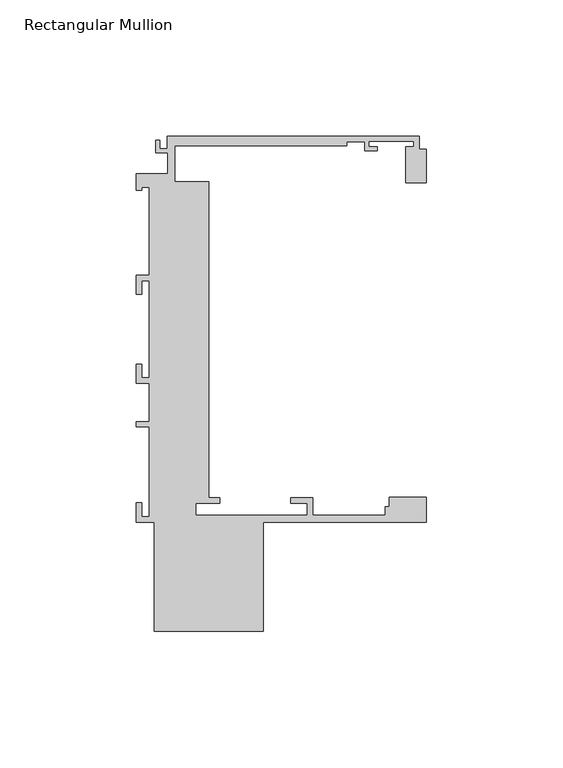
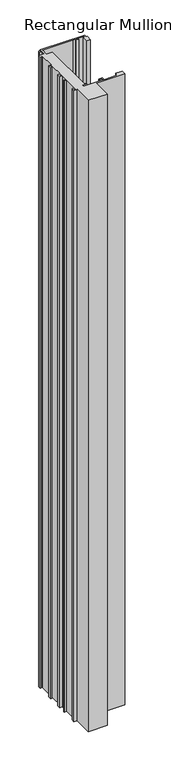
"""IFC4 building model written with IfcOpenShell, lengths in millimetres: member geometry, Rectangular Mullion : Danpal_K12_Middle-Mullion_B1."""

from ifc_helpers import new_model, si_unit, frame, origin, place, context, project, spatial, polyline, outline, extrude, source, transform, mapped, element, save


def rectangular_mullion_fbaaf38e(model_context):
    return source(origin(), model_context, "Body", "SweptSolid", [
        extrude(outline(polyline([(-24.173135, -117.8676658), (-20.1940961, -117.8676658), (-20.1940961, -119.8676658), (-28.9590961, -119.8676658), (-28.9590961, -124.2676658), (11.9409313, -124.2676658), (11.9409313, -119.8676658), (5.9409313, -119.8676658), (5.9409313, -117.8676658), (13.9409313, -117.8676658), (13.9409313, -124.2676658), (40.4959313, -124.2676658), (40.4959313, -121.0676175), (42.0287205, -121.0676175), (42.0287205, -117.6986749), (55.6176464, -117.6986749), (55.6176464, -126.7676657), (-4.1940962, -126.7676657), (-4.1940962, -166.7676657), (-44.1940962, -166.7676657), (-44.1940962, -126.7676657), (-50.7940962, -126.7676657), (-50.7940962, -119.7676657), (-48.7940962, -119.7676657), (-48.7940962, -124.7676657), (-45.9940962, -124.7676657), (-45.9940962, -91.8676485), (-50.7940962, -91.8676485), (-50.7940962, -89.8676485), (-45.9940962, -89.8676485), (-45.9940962, -75.867683), (-50.7940962, -75.867683), (-50.7940962, -68.8676657), (-48.7940962, -68.8676657), (-48.7940962, -73.8676657), (-45.9940962, -73.8676657), (-45.9940962, -38.2443486), (-48.7940962, -38.2443486), (-48.7940962, -43.2443486), (-50.7940962, -43.2443486), (-50.7940962, -36.2443486), (-45.9940962, -36.2443486), (-45.9940962, -3.9448486), (-48.7940962, -3.9448486), (-48.7940962, -4.9448486), (-50.7940962, -4.9448486), (-50.7940962, 1.0551514), (-39.1885087, 1.0551514), (-39.1885087, 8.8006425), (-43.6422367, 8.8006425), (-43.6422367, 13.3051514), (-42.1422367, 13.3051514), (-42.1422367, 10.3006425), (-39.3921425, 10.3006425), (-39.3921425, 14.8051514), (53.1059014, 14.8051514), (53.1059014, 10.065304), (55.6176464, 10.065304), (55.6176464, -2.316674), (48.1059014, -2.316674), (48.1059014, 11.0051513), (51.1059014, 11.0051513), (51.1059014, 13.0051512), (34.6059015, 13.0051512), (34.6059015, 11.0051513), (37.6059015, 11.0051513), (37.6059015, 9.5051512), (33.1059015, 9.5051512), (33.1059015, 12.8051513), (26.3590216, 12.8051513), (26.3590216, 11.3051512), (-36.6885087, 11.3051512), (-36.6885087, -1.9446289), (-24.173135, -1.9446289), (-24.173135, -117.8676658)])), frame((0.0, 0.0, -1398.4118076), z_axis=(0.0, 0.0, 1.0), x_axis=(1.0, 0.0, 0.0)), (0.0, 0.0, 1.0), 1398.4118076),
    ])


if __name__ == "__main__":
    model = new_model("IFC4")
    model_context = context("Model", 3, world=origin())
    ifc_project = project(units=[si_unit("LENGTHUNIT", "METRE", prefix="MILLI")], contexts=[model_context])
    site = spatial("IfcSite", under=ifc_project)
    building = spatial("IfcBuilding", under=site)
    placement = place(None, origin())
    rectangular_mullion_shape = rectangular_mullion_fbaaf38e(model_context)
    element("IfcMember", 1, ObjectType="Rectangular Mullion : Danpal_K12_Middle-Mullion_B1", at=placement, inside=building, context=model_context, shape_type="MappedRepresentation", body=[
        mapped(rectangular_mullion_shape, transform((0.0, 0.0, 0.0), x_axis=(1.0, 0.0, 0.0), y_axis=(0.0, 1.0, 0.0), z_axis=(0.0, 0.0, 1.0))),
    ])
    save(model, "model.ifc")
